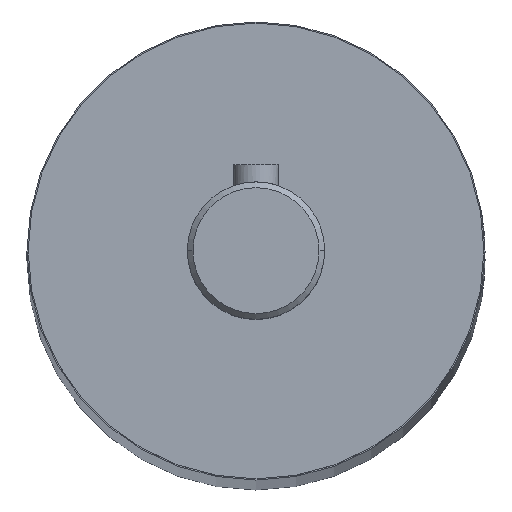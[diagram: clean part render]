
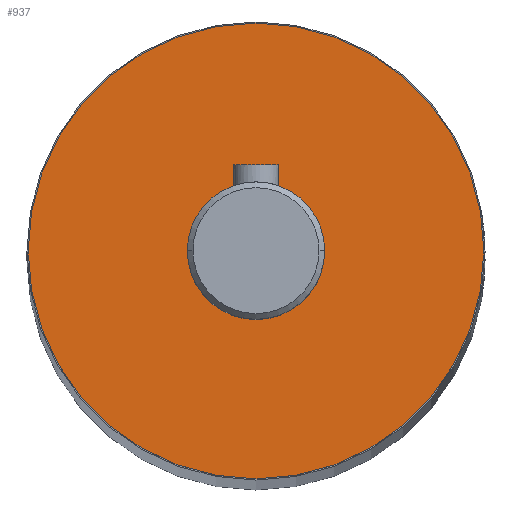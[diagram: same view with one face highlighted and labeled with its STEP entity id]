
A CAD part, top view. The second image highlights one B-rep face of the part: STEP entity #937.
In plain terms, the highlighted planar face has unit normal (0, 0, 1).
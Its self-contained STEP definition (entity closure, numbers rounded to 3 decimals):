
#3 = CIRCLE ( 'NONE', #1895, 19.9 ) ;
#48 = CARTESIAN_POINT ( 'NONE',  ( 19.9, 0., 252.5 ) ) ;
#78 = DIRECTION ( 'NONE',  ( 0., 0., 1. ) ) ;
#169 = CIRCLE ( 'NONE', #431, 19.9 ) ;
#195 = VERTEX_POINT ( 'NONE', #48 ) ;
#201 = FACE_OUTER_BOUND ( 'NONE', #254, .T. ) ;
#213 = PLANE ( 'NONE',  #942 ) ;
#254 = EDGE_LOOP ( 'NONE', ( #1349, #1815 ) ) ;
#312 = DIRECTION ( 'NONE',  ( 1., 0., 0. ) ) ;
#337 = VERTEX_POINT ( 'NONE', #1604 ) ;
#403 = EDGE_LOOP ( 'NONE', ( #1619, #1755 ) ) ;
#431 = AXIS2_PLACEMENT_3D ( 'NONE', #1186, #1198, #1891 ) ;
#486 = AXIS2_PLACEMENT_3D ( 'NONE', #892, #1803, #312 ) ;
#492 = CARTESIAN_POINT ( 'NONE',  ( 0., 0., 252.5 ) ) ;
#497 = EDGE_CURVE ( 'NONE', #337, #1125, #649, .T. ) ;
#547 = CIRCLE ( 'NONE', #1650, 6. ) ;
#649 = CIRCLE ( 'NONE', #486, 6. ) ;
#704 = DIRECTION ( 'NONE',  ( 1., 0., 0. ) ) ;
#802 = CARTESIAN_POINT ( 'NONE',  ( -19.9, 0., 252.5 ) ) ;
#892 = CARTESIAN_POINT ( 'NONE',  ( 0., 0., 252.5 ) ) ;
#937 = ADVANCED_FACE ( 'NONE', ( #1848, #201 ), #213, .T. ) ;
#942 = AXIS2_PLACEMENT_3D ( 'NONE', #492, #1711, #1533 ) ;
#954 = VERTEX_POINT ( 'NONE', #802 ) ;
#1028 = CARTESIAN_POINT ( 'NONE',  ( 0., 0., 252.5 ) ) ;
#1095 = CARTESIAN_POINT ( 'NONE',  ( -6., 0., 252.5 ) ) ;
#1125 = VERTEX_POINT ( 'NONE', #1095 ) ;
#1182 = CARTESIAN_POINT ( 'NONE',  ( 0., 0., 252.5 ) ) ;
#1186 = CARTESIAN_POINT ( 'NONE',  ( 0., 0., 252.5 ) ) ;
#1198 = DIRECTION ( 'NONE',  ( 0., 0., 1. ) ) ;
#1215 = EDGE_CURVE ( 'NONE', #1125, #337, #547, .T. ) ;
#1349 = ORIENTED_EDGE ( 'NONE', *, *, #1516, .T. ) ;
#1497 = EDGE_CURVE ( 'NONE', #195, #954, #3, .T. ) ;
#1516 = EDGE_CURVE ( 'NONE', #954, #195, #169, .T. ) ;
#1533 = DIRECTION ( 'NONE',  ( 1., 0., 0. ) ) ;
#1604 = CARTESIAN_POINT ( 'NONE',  ( 6., 0., 252.5 ) ) ;
#1618 = DIRECTION ( 'NONE',  ( 0., 0., 1. ) ) ;
#1619 = ORIENTED_EDGE ( 'NONE', *, *, #1215, .F. ) ;
#1650 = AXIS2_PLACEMENT_3D ( 'NONE', #1182, #78, #1745 ) ;
#1711 = DIRECTION ( 'NONE',  ( 0., 0., 1. ) ) ;
#1745 = DIRECTION ( 'NONE',  ( 1., 0., 0. ) ) ;
#1755 = ORIENTED_EDGE ( 'NONE', *, *, #497, .F. ) ;
#1803 = DIRECTION ( 'NONE',  ( 0., 0., 1. ) ) ;
#1815 = ORIENTED_EDGE ( 'NONE', *, *, #1497, .T. ) ;
#1848 = FACE_BOUND ( 'NONE', #403, .T. ) ;
#1891 = DIRECTION ( 'NONE',  ( 1., 0., 0. ) ) ;
#1895 = AXIS2_PLACEMENT_3D ( 'NONE', #1028, #1618, #704 ) ;
